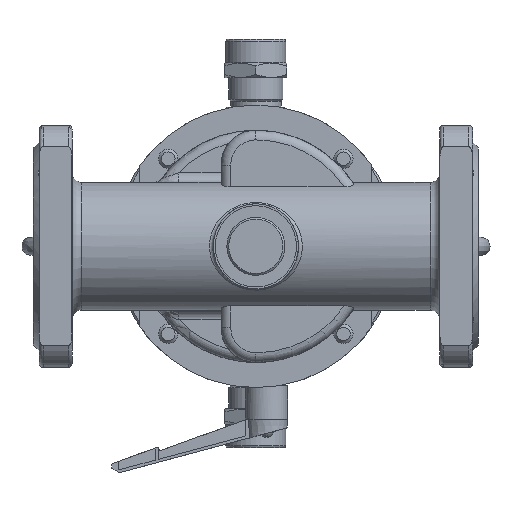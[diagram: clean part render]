
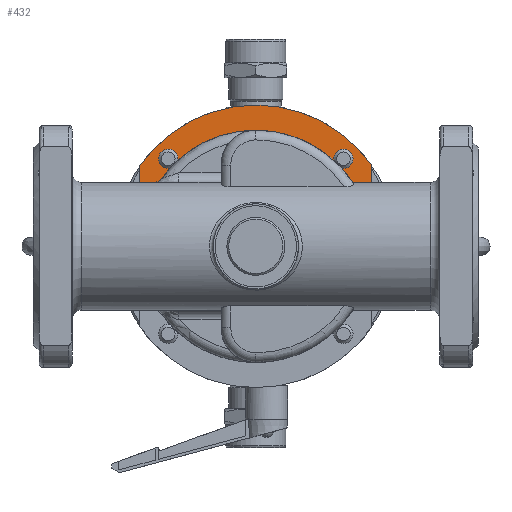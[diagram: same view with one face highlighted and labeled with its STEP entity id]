
A CAD part, front view. The second image highlights one B-rep face of the part: STEP entity #432.
In plain terms, the highlighted planar face has unit normal (0, -1, 0).
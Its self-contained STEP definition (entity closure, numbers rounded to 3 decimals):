
#432=ADVANCED_FACE('',(#22058),#22060,.F.);
#22058=FACE_BOUND('',#22059,.T.);
#22059=EDGE_LOOP('',(#55822,#55823,#55824,#55825,#55826,#55827,#55828,#55829,#55830,
#55831));
#22060=PLANE('',#22061);
#22061=AXIS2_PLACEMENT_3D('',#22062,#22063,#22064);
#22062=CARTESIAN_POINT('',(0.,33.,0.));
#22063=DIRECTION('',(0.,1.,0.));
#22064=DIRECTION('',(1.,0.,0.));
#55822=ORIENTED_EDGE('',*,*,#71915,.T.);
#55823=ORIENTED_EDGE('',*,*,#71971,.T.);
#55824=ORIENTED_EDGE('',*,*,#71910,.T.);
#55825=ORIENTED_EDGE('',*,*,#71972,.T.);
#55826=ORIENTED_EDGE('',*,*,#71973,.F.);
#55827=ORIENTED_EDGE('',*,*,#71974,.F.);
#55828=ORIENTED_EDGE('',*,*,#71975,.F.);
#55829=ORIENTED_EDGE('',*,*,#71976,.T.);
#55830=ORIENTED_EDGE('',*,*,#71977,.F.);
#55831=ORIENTED_EDGE('',*,*,#71978,.T.);
#71910=EDGE_CURVE('',#80377,#80379,#80381,.T.);
#71915=EDGE_CURVE('',#80386,#80388,#80390,.T.);
#71971=EDGE_CURVE('',#80388,#80377,#80490,.T.);
#71972=EDGE_CURVE('',#80379,#80491,#80492,.T.);
#71973=EDGE_CURVE('',#80493,#80491,#80494,.T.);
#71974=EDGE_CURVE('',#80495,#80493,#80496,.T.);
#71975=EDGE_CURVE('',#80497,#80495,#80498,.T.);
#71976=EDGE_CURVE('',#80497,#80499,#80500,.F.);
#71977=EDGE_CURVE('',#80501,#80499,#80502,.T.);
#71978=EDGE_CURVE('',#80501,#80386,#80503,.T.);
#80377=VERTEX_POINT('',#92605);
#80379=VERTEX_POINT('',#92609);
#80381=CIRCLE('',#92613,5.);
#80386=VERTEX_POINT('',#92627);
#80388=VERTEX_POINT('',#92631);
#80390=CIRCLE('',#92635,5.);
#80490=CIRCLE('',#92917,60.);
#80491=VERTEX_POINT('',#92921);
#80492=CIRCLE('',#92922,60.);
#80493=VERTEX_POINT('',#92926);
#80494=LINE('',#92927,#92928);
#80495=VERTEX_POINT('',#92930);
#80496=CIRCLE('',#92931,73.);
#80497=VERTEX_POINT('',#92935);
#80498=LINE('',#92936,#92937);
#80499=VERTEX_POINT('',#92939);
#80500=LINE('',#92940,#92941);
#80501=VERTEX_POINT('',#92943);
#80502=CIRCLE('',#92944,5.);
#80503=CIRCLE('',#92948,60.);
#92605=CARTESIAN_POINT('',(40.323,33.,44.43));
#92609=CARTESIAN_POINT('',(44.43,33.,40.323));
#92613=AXIS2_PLACEMENT_3D('',#92614,#92615,#92616);
#92614=CARTESIAN_POINT('',(45.255,33.,45.255));
#92615=DIRECTION('',(0.,1.,0.));
#92616=DIRECTION('',(-0.986,0.,-0.165));
#92627=CARTESIAN_POINT('',(-44.43,33.,40.323));
#92631=CARTESIAN_POINT('',(-40.323,33.,44.43));
#92635=AXIS2_PLACEMENT_3D('',#92636,#92637,#92638);
#92636=CARTESIAN_POINT('',(-45.255,33.,45.255));
#92637=DIRECTION('',(0.,1.,0.));
#92638=DIRECTION('',(0.165,0.,-0.986));
#92917=AXIS2_PLACEMENT_3D('',#92918,#92919,#92920);
#92918=CARTESIAN_POINT('',(0.,33.,0.));
#92919=DIRECTION('',(0.,1.,0.));
#92920=DIRECTION('',(-0.672,0.,0.741));
#92921=CARTESIAN_POINT('',(60.,33.,0.));
#92922=AXIS2_PLACEMENT_3D('',#92923,#92924,#92925);
#92923=CARTESIAN_POINT('',(0.,33.,0.));
#92924=DIRECTION('',(0.,1.,0.));
#92925=DIRECTION('',(0.741,0.,0.672));
#92926=CARTESIAN_POINT('',(60.,33.,41.581));
#92927=CARTESIAN_POINT('',(60.,33.,41.581));
#92928=VECTOR('',#92929,1.);
#92929=DIRECTION('',(0.,0.,-1.));
#92930=CARTESIAN_POINT('',(-60.,33.,41.581));
#92931=AXIS2_PLACEMENT_3D('',#92932,#92933,#92934);
#92932=CARTESIAN_POINT('',(0.,33.,0.));
#92933=DIRECTION('',(0.,1.,0.));
#92934=DIRECTION('',(-0.822,0.,0.57));
#92935=CARTESIAN_POINT('',(-60.,33.,33.));
#92936=CARTESIAN_POINT('',(-60.,33.,33.));
#92937=VECTOR('',#92938,1.);
#92938=DIRECTION('',(0.,0.,1.));
#92939=CARTESIAN_POINT('',(-52.735,33.,33.));
#92940=CARTESIAN_POINT('',(-52.735,33.,33.));
#92941=VECTOR('',#92942,1.);
#92942=DIRECTION('',(-1.,0.,0.));
#92943=CARTESIAN_POINT('',(-48.679,33.,35.077));
#92944=AXIS2_PLACEMENT_3D('',#92945,#92946,#92947);
#92945=CARTESIAN_POINT('',(-52.735,33.,38.));
#92946=DIRECTION('',(0.,1.,0.));
#92947=DIRECTION('',(0.811,0.,-0.585));
#92948=AXIS2_PLACEMENT_3D('',#92949,#92950,#92951);
#92949=CARTESIAN_POINT('',(0.,33.,0.));
#92950=DIRECTION('',(0.,1.,0.));
#92951=DIRECTION('',(-0.811,0.,0.585));
